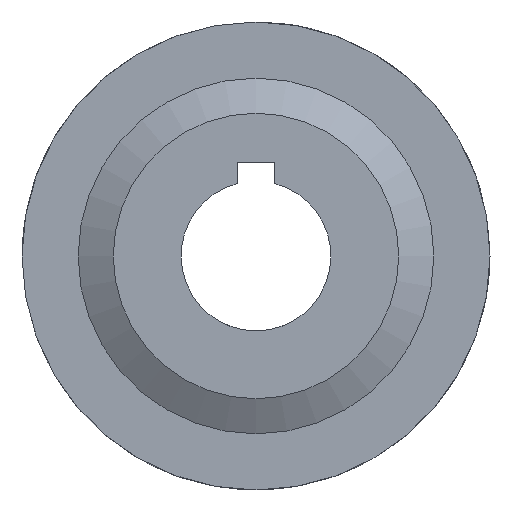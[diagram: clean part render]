
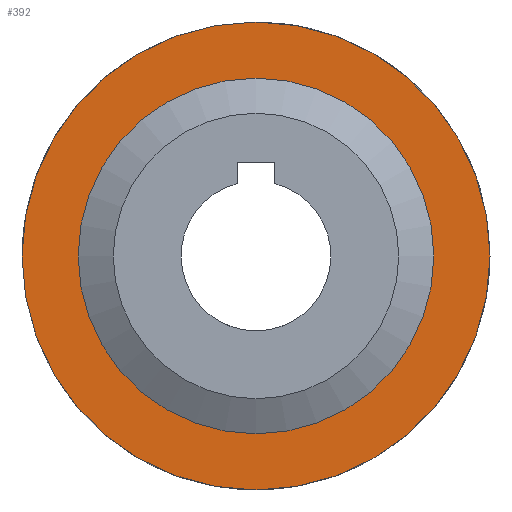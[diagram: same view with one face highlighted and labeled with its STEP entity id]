
A CAD part, left-side view. The second image highlights one B-rep face of the part: STEP entity #392.
In plain terms, the highlighted planar face has unit normal (-1, 0, 0).
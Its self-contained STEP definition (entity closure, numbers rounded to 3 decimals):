
#392 = ADVANCED_FACE( '', ( #932, #933 ), #934, .T. );
#932 = FACE_BOUND( '', #1625, .T. );
#933 = FACE_OUTER_BOUND( '', #1626, .T. );
#934 = PLANE( '', #1627 );
#1625 = EDGE_LOOP( '', ( #2609 ) );
#1626 = EDGE_LOOP( '', ( #2610 ) );
#1627 = AXIS2_PLACEMENT_3D( '', #2611, #2612, #2613 );
#2609 = ORIENTED_EDGE( '', *, *, #3495, .F. );
#2610 = ORIENTED_EDGE( '', *, *, #3368, .F. );
#2611 = CARTESIAN_POINT( '', ( -20.94, -12.658, 12.644 ) );
#2612 = DIRECTION( '', ( -1., 0., 0. ) );
#2613 = DIRECTION( '', ( 0., 1., 0. ) );
#3368 = EDGE_CURVE( '', #3941, #3941, #3942, .F. );
#3495 = EDGE_CURVE( '', #4136, #4136, #4137, .F. );
#3941 = VERTEX_POINT( '', #4749 );
#3942 = CIRCLE( '', #4750, 12.5 );
#4136 = VERTEX_POINT( '', #5043 );
#4137 = CIRCLE( '', #5044, 9.5 );
#4749 = CARTESIAN_POINT( '', ( -20.94, -0.008, -12.506 ) );
#4750 = AXIS2_PLACEMENT_3D( '', #5590, #5591, #5592 );
#5043 = CARTESIAN_POINT( '', ( -20.94, -0.008, 9.494 ) );
#5044 = AXIS2_PLACEMENT_3D( '', #5758, #5759, #5760 );
#5590 = CARTESIAN_POINT( '', ( -20.94, -0.008, -0.006 ) );
#5591 = DIRECTION( '', ( -1., 0., 0. ) );
#5592 = DIRECTION( '', ( 0., 0., -1. ) );
#5758 = CARTESIAN_POINT( '', ( -20.94, -0.008, -0.006 ) );
#5759 = DIRECTION( '', ( 1., 0., 0. ) );
#5760 = DIRECTION( '', ( 0., 0., 1. ) );
